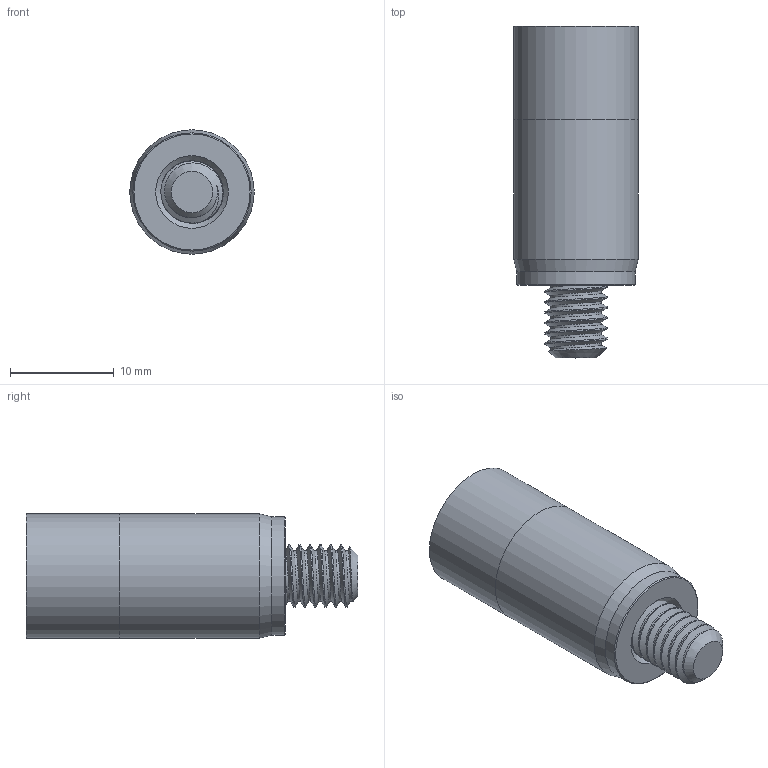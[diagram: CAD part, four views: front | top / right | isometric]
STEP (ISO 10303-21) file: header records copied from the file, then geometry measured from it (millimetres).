
FILE_DESCRIPTION (( 'STEP AP214' ), '1' );
FILE_NAME ('DAPF-12.STEP', '2018-10-09T18:08:52', ( '' ), ( '' ), 'SwSTEP 2.0', 'SolidWorks 2017', '' );
FILE_SCHEMA (( 'AUTOMOTIVE_DESIGN' ));
Length unit declared in the file: millimetre
Products named in the file (3): DAPF-12; DAP-12; Schraube-M6
Assembly tree (2 placements, depth 2):
  DAPF-12
    DAP-12
    Schraube-M6
Bounding box: 12 x 32.01 x 12 mm (x, y, z)
Volume: 2740 mm3; surface area: 2088.9 mm2
Topology: 3 solids, 3 shells, 107 faces, 273 edges, 181 vertices
Faces by surface type: plane 53, cylinder 42, cone 6, bspline 6
Full cylindrical faces by diameter (mm): 5 x7, 6.4 x1, 11.4 x1, 12 x2
Entity records: 9397 total; most frequent: CARTESIAN_POINT 6794, ORIENTED_EDGE 470, DIRECTION 468, EDGE_CURVE 235, AXIS2_PLACEMENT_3D 162, VERTEX_POINT 161, LINE 144, VECTOR 144
